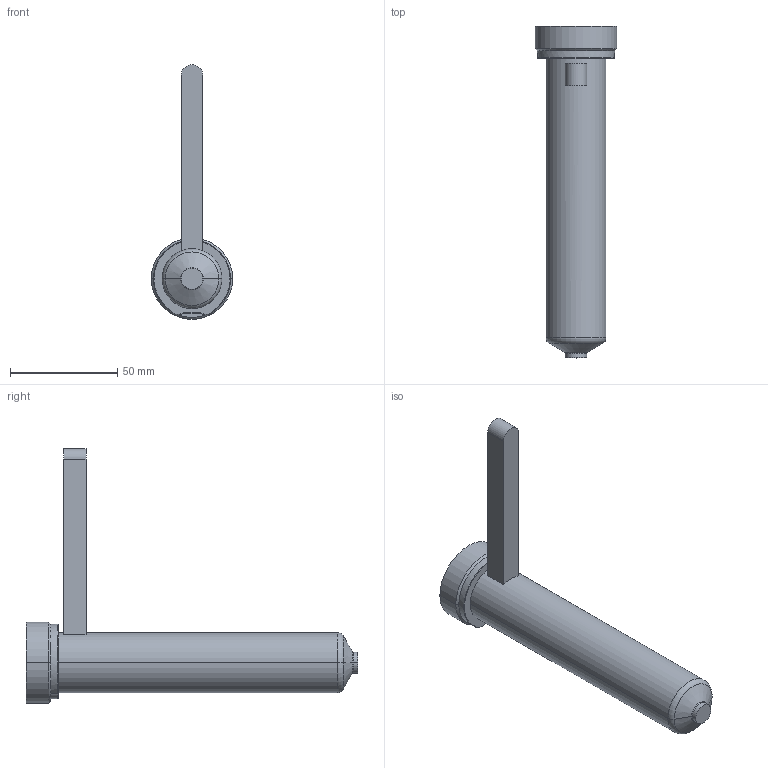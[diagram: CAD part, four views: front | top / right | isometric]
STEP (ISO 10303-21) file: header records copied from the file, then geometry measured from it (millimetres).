
FILE_DESCRIPTION((''),'2;1');
FILE_NAME('EO06_VG-FB_WR_140_COT','2024-02-19T13:27:42',('sundharh'),(''),'CREO PARAMETRIC BY PTC INC, 2023154','CREO PARAMETRIC BY PTC INC, 2023154','');
FILE_SCHEMA(('CONFIG_CONTROL_DESIGN'));
Length unit declared in the file: millimetre
Products named in the file (1): EO06_VG-FB_WR_140_COT
Bounding box: 38 x 155 x 119 mm (x, y, z)
Volume: 108655.1 mm3; surface area: 19210.1 mm2
Topology: 1 solids, 1 shells, 31 faces, 67 edges, 40 vertices
Faces by surface type: cylinder 11, plane 9, torus 7, cone 4
Entity records: 963 total; most frequent: CARTESIAN_POINT 230, DIRECTION 159, ORIENTED_EDGE 134, AXIS2_PLACEMENT_3D 67, EDGE_CURVE 67, VERTEX_POINT 40, CIRCLE 36, EDGE_LOOP 33
